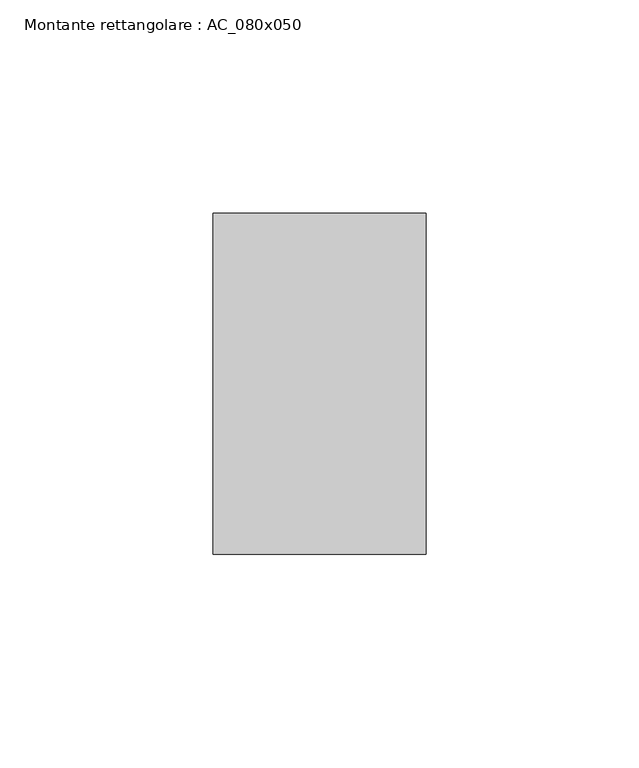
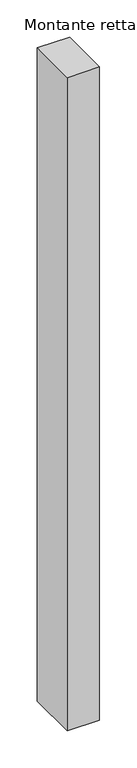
"""IFC4 building model written with IfcOpenShell, lengths in millimetres: member geometry, Montante rettangolare : AC_080x050."""

from ifc_helpers import new_model, si_unit, frame, origin, place, context, project, spatial, polyline, outline, extrude, source, transform, mapped, element, save


def montante_rettangolare_ac_080x050_7b74cc76(model_context):
    return source(origin(), model_context, "Body", "SweptSolid", [
        extrude(outline(polyline([(0.0, 40.0), (0.0, -40.0), (-50.0, -40.0), (-50.0, 40.0), (0.0, 40.0)])), frame((0.0, 0.0, -1070.0), z_axis=(0.0, 0.0, 1.0), x_axis=(1.0, 0.0, 0.0)), (0.0, 0.0, 1.0), 1070.0),
    ])


if __name__ == "__main__":
    model = new_model("IFC4")
    model_context = context("Model", 3, world=origin())
    ifc_project = project(units=[si_unit("LENGTHUNIT", "METRE", prefix="MILLI")], contexts=[model_context])
    site = spatial("IfcSite", under=ifc_project)
    building = spatial("IfcBuilding", under=site)
    placement = place(None, origin())
    montante_rettangolare_ac_080x050_shape = montante_rettangolare_ac_080x050_7b74cc76(model_context)
    element("IfcMember", 1, ObjectType="Montante rettangolare : AC_080x050", at=placement, inside=building, context=model_context, shape_type="MappedRepresentation", body=[
        mapped(montante_rettangolare_ac_080x050_shape, transform((0.0, 0.0, 0.0), x_axis=(1.0, 0.0, 0.0), y_axis=(0.0, 1.0, 0.0), z_axis=(0.0, 0.0, 1.0))),
    ])
    save(model, "model.ifc")
